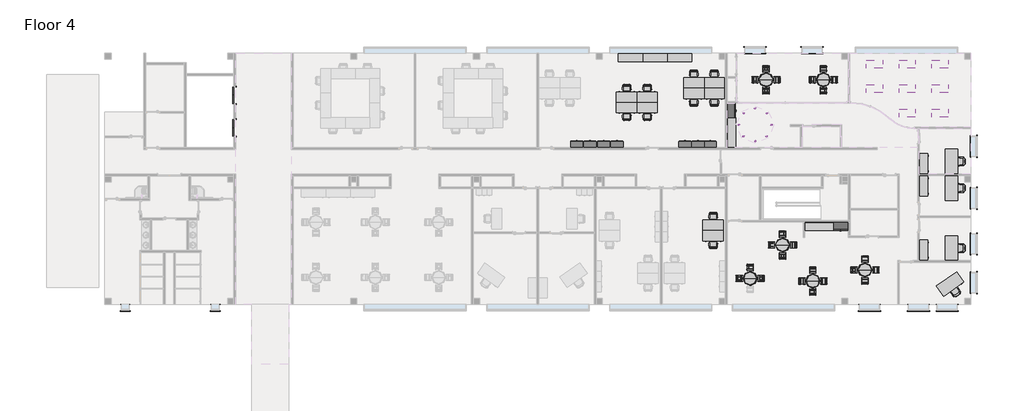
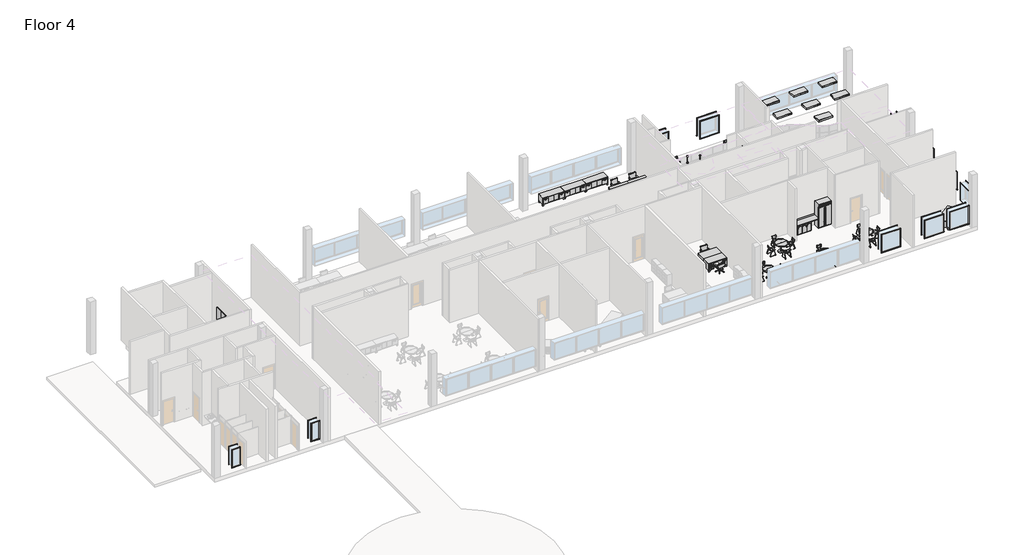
# One storey, part 6 of 6: 76 furniture elements, 26 proxies, 16 light fixtures.
"""IFC4 building model written with IfcOpenShell, lengths in millimetres."""

from ifc_helpers import new_model, si_unit, origin, place, context, project, spatial, transform, mapped, element, save
from components import proxy_ae548678, proxy_0447ab4b, trim_window_exterior_flat_with_sill_05ca63db, trim_window_exterior_flat_with_sill_4912eb0d, trim_window_interior_flat_picture_frame_a1a3bc7c, trim_window_interior_flat_picture_frame_978fd00d, furniture_338da5bd, furniture_7033c86c, chair_executive_chair_executive_8d69e98c, chair_executive_chair_executive_a5be4872, chair_stacking_chair_stacking_4df0970f, chair_task_arms_chair_task_arms_fa5a08ef, chair_task_arms_chair_task_arms_3c69ee15, furniture_b725675f, furniture_6bf0da8d, furniture_0f0bb7e9, furniture_a9e97cbc, furniture_d4af3f8d, furniture_f1eb905c, furniture_e30ff25b, furniture_33f25304, furniture_65204735, furniture_77f0a01d, pendant_lamp_art_glass_led_standard_edcf6bd5, troffer_light_2x4_parabolic_2_x4_4_lamp_120v_ca384779

model = new_model("IFC4")

# Units and contexts
model_context = context("Model", 3, world=origin())
ifc_project = project(units=[si_unit("LENGTHUNIT", "METRE", prefix="MILLI")], contexts=[model_context])

# Site, building, storey
site = spatial("IfcSite", under=ifc_project)
building = spatial("IfcBuilding", under=site)
storey = spatial("IfcBuildingStorey", under=building, Name="Floor 4", Elevation=14935.2)

# Proxies
placement = place(None, origin())
proxy_shape = proxy_ae548678(model_context)
element("IfcBuildingElementProxy", 1, Name="Elevator-Center : 72\" x 114\" Hospital min.", ObjectType="Elevator-Center : 72\" x 114\" Hospital min.", at=placement, inside=storey, context=model_context, shape_type="MappedRepresentation", body=[
    mapped(proxy_shape, transform((6707.2192024, 51882.5975333, 14935.2), x_axis=(0.0, 1.0, 0.0), y_axis=(-1.0, 0.0, 0.0), z_axis=(0.0, 0.0, 1.0))),
])
element("IfcBuildingElementProxy", 2, Name="Elevator-Center : 72\" x 114\" Hospital min.", ObjectType="Elevator-Center : 72\" x 114\" Hospital min.", at=placement, inside=storey, context=model_context, shape_type="MappedRepresentation", body=[
    mapped(proxy_shape, transform((6707.2192024, 54320.9975333, 14935.2), x_axis=(0.0, 1.0, 0.0), y_axis=(-1.0, 0.0, 0.0), z_axis=(0.0, 0.0, 1.0))),
])
proxy_2_shape = proxy_0447ab4b(model_context)
element("IfcBuildingElementProxy", 3, Name="Refrigerator-Side-by-Side : 42\" Left Side Freezer", ObjectType="Refrigerator-Side-by-Side : 42\" Left Side Freezer", at=placement, inside=storey, context=model_context, shape_type="MappedRepresentation", body=[
    mapped(proxy_2_shape, transform((51838.2567024, 44868.311889, 14935.2), x_axis=(1.0, 0.0, 0.0), y_axis=(0.0, 1.0, 0.0), z_axis=(0.0, 0.0, 1.0))),
])
element("IfcBuildingElementProxy", 4, Name="Refrigerator-Side-by-Side : 42\" Left Side Freezer", ObjectType="Refrigerator-Side-by-Side : 42\" Left Side Freezer", at=placement, inside=storey, context=model_context, shape_type="MappedRepresentation", body=[
    mapped(proxy_2_shape, transform((43251.4692024, 53086.799389, 14935.2), x_axis=(0.0, 1.0, 0.0), y_axis=(-1.0, 0.0, 0.0), z_axis=(0.0, 0.0, 1.0))),
])
trim_window_exterior_flat_with_sill_shape = trim_window_exterior_flat_with_sill_05ca63db(model_context)
element("IfcBuildingElementProxy", 5, Name="Trim-Window-Exterior-Flat : with Sill", ObjectType="Trim-Window-Exterior-Flat : with Sill", at=placement, inside=storey, context=model_context, shape_type="MappedRepresentation", body=[
    mapped(trim_window_exterior_flat_with_sill_shape, transform((61956.9817024, 46544.711889, 17373.6), x_axis=(0.0, 1.0, 0.0), y_axis=(0.0, 0.0, 1.0), z_axis=(1.0, 0.0, 0.0))),
])
element("IfcBuildingElementProxy", 6, Name="Trim-Window-Exterior-Flat : with Sill", ObjectType="Trim-Window-Exterior-Flat : with Sill", at=placement, inside=storey, context=model_context, shape_type="MappedRepresentation", body=[
    mapped(trim_window_exterior_flat_with_sill_shape, transform((61956.9817024, 43141.111889, 17373.6), x_axis=(0.0, 1.0, 0.0), y_axis=(0.0, 0.0, 1.0), z_axis=(1.0, 0.0, 0.0))),
])
element("IfcBuildingElementProxy", 7, Name="Trim-Window-Exterior-Flat : with Sill", ObjectType="Trim-Window-Exterior-Flat : with Sill", at=placement, inside=storey, context=model_context, shape_type="MappedRepresentation", body=[
    mapped(trim_window_exterior_flat_with_sill_shape, transform((61956.9817024, 40245.511889, 17373.6), x_axis=(0.0, 1.0, 0.0), y_axis=(0.0, 0.0, 1.0), z_axis=(1.0, 0.0, 0.0))),
])
element("IfcBuildingElementProxy", 8, Name="Trim-Window-Exterior-Flat : with Sill", ObjectType="Trim-Window-Exterior-Flat : with Sill", at=placement, inside=storey, context=model_context, shape_type="MappedRepresentation", body=[
    mapped(trim_window_exterior_flat_with_sill_shape, transform((61956.9817024, 50405.511889, 17373.6), x_axis=(0.0, 1.0, 0.0), y_axis=(0.0, 0.0, 1.0), z_axis=(1.0, 0.0, 0.0))),
])
element("IfcBuildingElementProxy", 9, Name="Trim-Window-Exterior-Flat : with Sill", ObjectType="Trim-Window-Exterior-Flat : with Sill", at=placement, inside=storey, context=model_context, shape_type="MappedRepresentation", body=[
    mapped(trim_window_exterior_flat_with_sill_shape, transform((59742.4192024, 38164.299389, 17373.6), x_axis=(1.0, 0.0, 0.0), y_axis=(0.0, 0.0, 1.0), z_axis=(0.0, -1.0, 0.0))),
])
element("IfcBuildingElementProxy", 10, Name="Trim-Window-Exterior-Flat : with Sill", ObjectType="Trim-Window-Exterior-Flat : with Sill", at=placement, inside=storey, context=model_context, shape_type="MappedRepresentation", body=[
    mapped(trim_window_exterior_flat_with_sill_shape, transform((57608.8192024, 38164.299389, 17373.6), x_axis=(1.0, 0.0, 0.0), y_axis=(0.0, 0.0, 1.0), z_axis=(0.0, -1.0, 0.0))),
])
element("IfcBuildingElementProxy", 11, Name="Trim-Window-Exterior-Flat : with Sill", ObjectType="Trim-Window-Exterior-Flat : with Sill", at=placement, inside=storey, context=model_context, shape_type="MappedRepresentation", body=[
    mapped(trim_window_exterior_flat_with_sill_shape, transform((53951.2192024, 38164.299389, 17373.6), x_axis=(1.0, 0.0, 0.0), y_axis=(0.0, 0.0, 1.0), z_axis=(0.0, -1.0, 0.0))),
])
element("IfcBuildingElementProxy", 12, Name="Trim-Window-Exterior-Flat : with Sill", ObjectType="Trim-Window-Exterior-Flat : with Sill", at=placement, inside=storey, context=model_context, shape_type="MappedRepresentation", body=[
    mapped(trim_window_exterior_flat_with_sill_shape, transform((45423.1692024, 57820.724389, 17373.6), x_axis=(-1.0, 0.0, 0.0), y_axis=(0.0, 0.0, 1.0), z_axis=(0.0, 1.0, 0.0))),
])
element("IfcBuildingElementProxy", 13, Name="Trim-Window-Exterior-Flat : with Sill", ObjectType="Trim-Window-Exterior-Flat : with Sill", at=placement, inside=storey, context=model_context, shape_type="MappedRepresentation", body=[
    mapped(trim_window_exterior_flat_with_sill_shape, transform((49690.3692024, 57820.724389, 17373.6), x_axis=(-1.0, 0.0, 0.0), y_axis=(0.0, 0.0, 1.0), z_axis=(0.0, 1.0, 0.0))),
])
trim_window_exterior_flat_with_sill_2_shape = trim_window_exterior_flat_with_sill_4912eb0d(model_context)
element("IfcBuildingElementProxy", 14, Name="Trim-Window-Exterior-Flat : with Sill", ObjectType="Trim-Window-Exterior-Flat : with Sill", at=placement, inside=storey, context=model_context, shape_type="MappedRepresentation", body=[
    mapped(trim_window_exterior_flat_with_sill_2_shape, transform((-1446.1807976, 38164.299389, 17373.6), x_axis=(1.0, 0.0, 0.0), y_axis=(0.0, 0.0, 1.0), z_axis=(0.0, -1.0, 0.0))),
])
element("IfcBuildingElementProxy", 15, Name="Trim-Window-Exterior-Flat : with Sill", ObjectType="Trim-Window-Exterior-Flat : with Sill", at=placement, inside=storey, context=model_context, shape_type="MappedRepresentation", body=[
    mapped(trim_window_exterior_flat_with_sill_2_shape, transform((5259.4192024, 38164.299389, 17373.6), x_axis=(1.0, 0.0, 0.0), y_axis=(0.0, 0.0, 1.0), z_axis=(0.0, -1.0, 0.0))),
])
trim_window_interior_flat_picture_frame_shape = trim_window_interior_flat_picture_frame_a1a3bc7c(model_context)
element("IfcBuildingElementProxy", 16, Name="Trim-Window-Interior-Flat : Picture Frame", ObjectType="Trim-Window-Interior-Flat : Picture Frame", at=placement, inside=storey, context=model_context, shape_type="MappedRepresentation", body=[
    mapped(trim_window_interior_flat_picture_frame_shape, transform((61502.9567024, 46544.711889, 17373.6), x_axis=(0.0, -1.0, 0.0), y_axis=(0.0, 0.0, 1.0), z_axis=(-1.0, 0.0, 0.0))),
])
element("IfcBuildingElementProxy", 17, Name="Trim-Window-Interior-Flat : Picture Frame", ObjectType="Trim-Window-Interior-Flat : Picture Frame", at=placement, inside=storey, context=model_context, shape_type="MappedRepresentation", body=[
    mapped(trim_window_interior_flat_picture_frame_shape, transform((61502.9567024, 43141.111889, 17373.6), x_axis=(0.0, -1.0, 0.0), y_axis=(0.0, 0.0, 1.0), z_axis=(-1.0, 0.0, 0.0))),
])
element("IfcBuildingElementProxy", 18, Name="Trim-Window-Interior-Flat : Picture Frame", ObjectType="Trim-Window-Interior-Flat : Picture Frame", at=placement, inside=storey, context=model_context, shape_type="MappedRepresentation", body=[
    mapped(trim_window_interior_flat_picture_frame_shape, transform((61502.9567024, 40245.511889, 17373.6), x_axis=(0.0, -1.0, 0.0), y_axis=(0.0, 0.0, 1.0), z_axis=(-1.0, 0.0, 0.0))),
])
element("IfcBuildingElementProxy", 19, Name="Trim-Window-Interior-Flat : Picture Frame", ObjectType="Trim-Window-Interior-Flat : Picture Frame", at=placement, inside=storey, context=model_context, shape_type="MappedRepresentation", body=[
    mapped(trim_window_interior_flat_picture_frame_shape, transform((61502.9567024, 50405.511889, 17373.6), x_axis=(0.0, -1.0, 0.0), y_axis=(0.0, 0.0, 1.0), z_axis=(-1.0, 0.0, 0.0))),
])
element("IfcBuildingElementProxy", 20, Name="Trim-Window-Interior-Flat : Picture Frame", ObjectType="Trim-Window-Interior-Flat : Picture Frame", at=placement, inside=storey, context=model_context, shape_type="MappedRepresentation", body=[
    mapped(trim_window_interior_flat_picture_frame_shape, transform((59742.4192024, 38618.324389, 17373.6), x_axis=(-1.0, 0.0, 0.0), y_axis=(0.0, 0.0, 1.0), z_axis=(0.0, 1.0, 0.0))),
])
element("IfcBuildingElementProxy", 21, Name="Trim-Window-Interior-Flat : Picture Frame", ObjectType="Trim-Window-Interior-Flat : Picture Frame", at=placement, inside=storey, context=model_context, shape_type="MappedRepresentation", body=[
    mapped(trim_window_interior_flat_picture_frame_shape, transform((57608.8192024, 38618.324389, 17373.6), x_axis=(-1.0, 0.0, 0.0), y_axis=(0.0, 0.0, 1.0), z_axis=(0.0, 1.0, 0.0))),
])
element("IfcBuildingElementProxy", 22, Name="Trim-Window-Interior-Flat : Picture Frame", ObjectType="Trim-Window-Interior-Flat : Picture Frame", at=placement, inside=storey, context=model_context, shape_type="MappedRepresentation", body=[
    mapped(trim_window_interior_flat_picture_frame_shape, transform((53951.2192024, 38618.324389, 17373.6), x_axis=(-1.0, 0.0, 0.0), y_axis=(0.0, 0.0, 1.0), z_axis=(0.0, 1.0, 0.0))),
])
element("IfcBuildingElementProxy", 23, Name="Trim-Window-Interior-Flat : Picture Frame", ObjectType="Trim-Window-Interior-Flat : Picture Frame", at=placement, inside=storey, context=model_context, shape_type="MappedRepresentation", body=[
    mapped(trim_window_interior_flat_picture_frame_shape, transform((45423.1692024, 57366.699389, 17373.6), x_axis=(1.0, 0.0, 0.0), y_axis=(0.0, 0.0, 1.0), z_axis=(0.0, -1.0, 0.0))),
])
element("IfcBuildingElementProxy", 24, Name="Trim-Window-Interior-Flat : Picture Frame", ObjectType="Trim-Window-Interior-Flat : Picture Frame", at=placement, inside=storey, context=model_context, shape_type="MappedRepresentation", body=[
    mapped(trim_window_interior_flat_picture_frame_shape, transform((49690.3692024, 57366.699389, 17373.6), x_axis=(1.0, 0.0, 0.0), y_axis=(0.0, 0.0, 1.0), z_axis=(0.0, -1.0, 0.0))),
])
trim_window_interior_flat_picture_frame_2_shape = trim_window_interior_flat_picture_frame_978fd00d(model_context)
element("IfcBuildingElementProxy", 25, Name="Trim-Window-Interior-Flat : Picture Frame", ObjectType="Trim-Window-Interior-Flat : Picture Frame", at=placement, inside=storey, context=model_context, shape_type="MappedRepresentation", body=[
    mapped(trim_window_interior_flat_picture_frame_2_shape, transform((-1446.1807976, 38618.324389, 17373.6), x_axis=(-1.0, 0.0, 0.0), y_axis=(0.0, 0.0, 1.0), z_axis=(0.0, 1.0, 0.0))),
])
element("IfcBuildingElementProxy", 26, Name="Trim-Window-Interior-Flat : Picture Frame", ObjectType="Trim-Window-Interior-Flat : Picture Frame", at=placement, inside=storey, context=model_context, shape_type="MappedRepresentation", body=[
    mapped(trim_window_interior_flat_picture_frame_2_shape, transform((5259.4192024, 38618.324389, 17373.6), x_axis=(-1.0, 0.0, 0.0), y_axis=(0.0, 0.0, 1.0), z_axis=(0.0, 1.0, 0.0))),
])

# Furniture
furniture_shape = furniture_338da5bd(model_context)
element("IfcFurniture", 27, ObjectType="Base Cabinet-Double Door & 2 Drawer : 30\"", at=placement, inside=storey, context=model_context, shape_type="MappedRepresentation", body=[
    mapped(furniture_shape, transform((49498.5939974, 44766.711889, 14935.2), x_axis=(1.0, 0.0, 0.0), y_axis=(0.0, 1.0, 0.0), z_axis=(0.0, 0.0, 1.0))),
])
element("IfcFurniture", 28, ObjectType="Base Cabinet-Double Door & 2 Drawer : 30\"", at=placement, inside=storey, context=model_context, shape_type="MappedRepresentation", body=[
    mapped(furniture_shape, transform((50260.5939974, 44766.711889, 14935.2), x_axis=(1.0, 0.0, 0.0), y_axis=(0.0, 1.0, 0.0), z_axis=(0.0, 0.0, 1.0))),
])
element("IfcFurniture", 29, ObjectType="Base Cabinet-Double Door & 2 Drawer : 30\"", at=placement, inside=storey, context=model_context, shape_type="MappedRepresentation", body=[
    mapped(furniture_shape, transform((43353.0692024, 50691.5741841, 14935.2), x_axis=(0.0, 1.0, 0.0), y_axis=(-1.0, 0.0, 0.0), z_axis=(0.0, 0.0, 1.0))),
])
element("IfcFurniture", 30, ObjectType="Base Cabinet-Double Door & 2 Drawer : 30\"", at=placement, inside=storey, context=model_context, shape_type="MappedRepresentation", body=[
    mapped(furniture_shape, transform((43353.0692024, 51453.5741841, 14935.2), x_axis=(0.0, 1.0, 0.0), y_axis=(-1.0, 0.0, 0.0), z_axis=(0.0, 0.0, 1.0))),
])
furniture_2_shape = furniture_7033c86c(model_context)
element("IfcFurniture", 31, ObjectType="Cabinet-File 4 Drawer : 36\" x 18\" Lat.", at=placement, inside=storey, context=model_context, shape_type="MappedRepresentation", body=[
    mapped(furniture_2_shape, transform((32036.4727553, 50415.7775889, 14935.2), x_axis=(-1.0, 0.0, 0.0), y_axis=(0.0, -1.0, 0.0), z_axis=(0.0, 0.0, 1.0))),
])
element("IfcFurniture", 32, ObjectType="Cabinet-File 4 Drawer : 36\" x 18\" Lat.", at=placement, inside=storey, context=model_context, shape_type="MappedRepresentation", body=[
    mapped(furniture_2_shape, transform((33027.0727553, 50415.7775889, 14935.2), x_axis=(-1.0, 0.0, 0.0), y_axis=(0.0, -1.0, 0.0), z_axis=(0.0, 0.0, 1.0))),
])
element("IfcFurniture", 33, ObjectType="Cabinet-File 4 Drawer : 36\" x 18\" Lat.", at=placement, inside=storey, context=model_context, shape_type="MappedRepresentation", body=[
    mapped(furniture_2_shape, transform((34043.0727553, 50415.7775889, 14935.2), x_axis=(-1.0, 0.0, 0.0), y_axis=(0.0, -1.0, 0.0), z_axis=(0.0, 0.0, 1.0))),
])
element("IfcFurniture", 34, ObjectType="Cabinet-File 4 Drawer : 36\" x 18\" Lat.", at=placement, inside=storey, context=model_context, shape_type="MappedRepresentation", body=[
    mapped(furniture_2_shape, transform((35033.6727553, 50415.7775889, 14935.2), x_axis=(-1.0, 0.0, 0.0), y_axis=(0.0, -1.0, 0.0), z_axis=(0.0, 0.0, 1.0))),
])
element("IfcFurniture", 35, ObjectType="Cabinet-File 4 Drawer : 36\" x 18\" Lat.", at=placement, inside=storey, context=model_context, shape_type="MappedRepresentation", body=[
    mapped(furniture_2_shape, transform((40104.5794408, 50415.7775889, 14935.2), x_axis=(-1.0, 0.0, 0.0), y_axis=(0.0, -1.0, 0.0), z_axis=(0.0, 0.0, 1.0))),
])
element("IfcFurniture", 36, ObjectType="Cabinet-File 4 Drawer : 36\" x 18\" Lat.", at=placement, inside=storey, context=model_context, shape_type="MappedRepresentation", body=[
    mapped(furniture_2_shape, transform((41053.4727553, 50415.7775889, 14935.2), x_axis=(-1.0, 0.0, 0.0), y_axis=(0.0, -1.0, 0.0), z_axis=(0.0, 0.0, 1.0))),
])
element("IfcFurniture", 37, ObjectType="Cabinet-File 4 Drawer : 36\" x 18\" Lat.", at=placement, inside=storey, context=model_context, shape_type="MappedRepresentation", body=[
    mapped(furniture_2_shape, transform((41967.8727553, 50415.7775889, 14935.2), x_axis=(-1.0, 0.0, 0.0), y_axis=(0.0, -1.0, 0.0), z_axis=(0.0, 0.0, 1.0))),
])
chair_executive_chair_executive_shape = chair_executive_chair_executive_8d69e98c(model_context)
element("IfcFurniture", 38, ObjectType="Chair-Executive : Chair-Executive", at=placement, inside=storey, context=model_context, shape_type="MappedRepresentation", body=[
    mapped(chair_executive_chair_executive_shape, transform((60745.1356072, 47167.3085693, 14935.2), x_axis=(0.0, 1.0, 0.0), y_axis=(-1.0, 0.0, 0.0), z_axis=(0.0, 0.0, 1.0))),
])
chair_executive_chair_executive_2_shape = chair_executive_chair_executive_a5be4872(model_context)
element("IfcFurniture", 39, ObjectType="Chair-Executive : Chair-Executive", at=placement, inside=storey, context=model_context, shape_type="MappedRepresentation", body=[
    mapped(chair_executive_chair_executive_2_shape, transform((60471.9435605, 39658.0167973, 14935.2), x_axis=(-0.819152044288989, -0.57357643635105, 0.0), y_axis=(0.57357643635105, -0.819152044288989, 0.0), z_axis=(0.0, 0.0, 1.0))),
])
element("IfcFurniture", 40, ObjectType="Chair-Executive : Chair-Executive", at=placement, inside=storey, context=model_context, shape_type="MappedRepresentation", body=[
    mapped(chair_executive_chair_executive_2_shape, transform((60745.1356072, 42969.3652087, 14935.2), x_axis=(0.0, -1.0, 0.0), y_axis=(1.0, 0.0, 0.0), z_axis=(0.0, 0.0, 1.0))),
])
element("IfcFurniture", 41, ObjectType="Chair-Executive : Chair-Executive", at=placement, inside=storey, context=model_context, shape_type="MappedRepresentation", body=[
    mapped(chair_executive_chair_executive_2_shape, transform((60745.1356072, 49427.3152087, 14935.2), x_axis=(0.0, -1.0, 0.0), y_axis=(1.0, 0.0, 0.0), z_axis=(0.0, 0.0, 1.0))),
])
chair_stacking_chair_stacking_shape = chair_stacking_chair_stacking_4df0970f(model_context)
element("IfcFurniture", 42, ObjectType="Chair-Stacking : Chair-Stacking", at=placement, inside=storey, context=model_context, shape_type="MappedRepresentation", body=[
    mapped(chair_stacking_chair_stacking_shape, transform((45995.2489883, 40754.7810293, 14935.2), x_axis=(0.0, 1.0, 0.0), y_axis=(-1.0, 0.0, 0.0), z_axis=(0.0, 0.0, 1.0))),
])
element("IfcFurniture", 43, ObjectType="Chair-Stacking : Chair-Stacking", at=placement, inside=storey, context=model_context, shape_type="MappedRepresentation", body=[
    mapped(chair_stacking_chair_stacking_shape, transform((44894.4483845, 41497.4832725, 14935.2), x_axis=(-1.0, 0.0, 0.0), y_axis=(0.0, -1.0, 0.0), z_axis=(0.0, 0.0, 1.0))),
])
element("IfcFurniture", 44, ObjectType="Chair-Stacking : Chair-Stacking", at=placement, inside=storey, context=model_context, shape_type="MappedRepresentation", body=[
    mapped(chair_stacking_chair_stacking_shape, transform((44151.7461412, 40396.6826686, 14935.2), x_axis=(0.0, -1.0, 0.0), y_axis=(1.0, 0.0, 0.0), z_axis=(0.0, 0.0, 1.0))),
])
element("IfcFurniture", 45, ObjectType="Chair-Stacking : Chair-Stacking", at=placement, inside=storey, context=model_context, shape_type="MappedRepresentation", body=[
    mapped(chair_stacking_chair_stacking_shape, transform((47666.1534015, 42140.227428, 14935.2), x_axis=(1.0, 0.0, 0.0), y_axis=(0.0, 1.0, 0.0), z_axis=(0.0, 0.0, 1.0))),
])
element("IfcFurniture", 46, ObjectType="Chair-Stacking : Chair-Stacking", at=placement, inside=storey, context=model_context, shape_type="MappedRepresentation", body=[
    mapped(chair_stacking_chair_stacking_shape, transform((48408.8556447, 43241.0280319, 14935.2), x_axis=(0.0, 1.0, 0.0), y_axis=(-1.0, 0.0, 0.0), z_axis=(0.0, 0.0, 1.0))),
])
element("IfcFurniture", 47, ObjectType="Chair-Stacking : Chair-Stacking", at=placement, inside=storey, context=model_context, shape_type="MappedRepresentation", body=[
    mapped(chair_stacking_chair_stacking_shape, transform((47308.0550408, 43983.7302751, 14935.2), x_axis=(-1.0, 0.0, 0.0), y_axis=(0.0, -1.0, 0.0), z_axis=(0.0, 0.0, 1.0))),
])
element("IfcFurniture", 48, ObjectType="Chair-Stacking : Chair-Stacking", at=placement, inside=storey, context=model_context, shape_type="MappedRepresentation", body=[
    mapped(chair_stacking_chair_stacking_shape, transform((46565.3527976, 42882.9296712, 14935.2), x_axis=(0.0, -1.0, 0.0), y_axis=(1.0, 0.0, 0.0), z_axis=(0.0, 0.0, 1.0))),
])
element("IfcFurniture", 49, ObjectType="Chair-Stacking : Chair-Stacking", at=placement, inside=storey, context=model_context, shape_type="MappedRepresentation", body=[
    mapped(chair_stacking_chair_stacking_shape, transform((49919.2525309, 39455.088446, 14935.2), x_axis=(1.0, 0.0, 0.0), y_axis=(0.0, 1.0, 0.0), z_axis=(0.0, 0.0, 1.0))),
])
element("IfcFurniture", 50, ObjectType="Chair-Stacking : Chair-Stacking", at=placement, inside=storey, context=model_context, shape_type="MappedRepresentation", body=[
    mapped(chair_stacking_chair_stacking_shape, transform((50661.9547742, 40555.8890499, 14935.2), x_axis=(0.0, 1.0, 0.0), y_axis=(-1.0, 0.0, 0.0), z_axis=(0.0, 0.0, 1.0))),
])
element("IfcFurniture", 51, ObjectType="Chair-Stacking : Chair-Stacking", at=placement, inside=storey, context=model_context, shape_type="MappedRepresentation", body=[
    mapped(chair_stacking_chair_stacking_shape, transform((49561.1541703, 41298.5912931, 14935.2), x_axis=(-1.0, 0.0, 0.0), y_axis=(0.0, -1.0, 0.0), z_axis=(0.0, 0.0, 1.0))),
])
element("IfcFurniture", 52, ObjectType="Chair-Stacking : Chair-Stacking", at=placement, inside=storey, context=model_context, shape_type="MappedRepresentation", body=[
    mapped(chair_stacking_chair_stacking_shape, transform((48818.451927, 40197.7906892, 14935.2), x_axis=(0.0, -1.0, 0.0), y_axis=(1.0, 0.0, 0.0), z_axis=(0.0, 0.0, 1.0))),
])
element("IfcFurniture", 53, ObjectType="Chair-Stacking : Chair-Stacking", at=placement, inside=storey, context=model_context, shape_type="MappedRepresentation", body=[
    mapped(chair_stacking_chair_stacking_shape, transform((53795.0645841, 40278.9177297, 14935.2), x_axis=(1.0, 0.0, 0.0), y_axis=(0.0, 1.0, 0.0), z_axis=(0.0, 0.0, 1.0))),
])
element("IfcFurniture", 54, ObjectType="Chair-Stacking : Chair-Stacking", at=placement, inside=storey, context=model_context, shape_type="MappedRepresentation", body=[
    mapped(chair_stacking_chair_stacking_shape, transform((54537.7668273, 41379.7183336, 14935.2), x_axis=(0.0, 1.0, 0.0), y_axis=(-1.0, 0.0, 0.0), z_axis=(0.0, 0.0, 1.0))),
])
element("IfcFurniture", 55, ObjectType="Chair-Stacking : Chair-Stacking", at=placement, inside=storey, context=model_context, shape_type="MappedRepresentation", body=[
    mapped(chair_stacking_chair_stacking_shape, transform((53436.9662234, 42122.4205768, 14935.2), x_axis=(-1.0, 0.0, 0.0), y_axis=(0.0, -1.0, 0.0), z_axis=(0.0, 0.0, 1.0))),
])
element("IfcFurniture", 56, ObjectType="Chair-Stacking : Chair-Stacking", at=placement, inside=storey, context=model_context, shape_type="MappedRepresentation", body=[
    mapped(chair_stacking_chair_stacking_shape, transform((52694.2639802, 41021.6199729, 14935.2), x_axis=(0.0, -1.0, 0.0), y_axis=(1.0, 0.0, 0.0), z_axis=(0.0, 0.0, 1.0))),
])
element("IfcFurniture", 57, ObjectType="Chair-Stacking : Chair-Stacking", at=placement, inside=storey, context=model_context, shape_type="MappedRepresentation", body=[
    mapped(chair_stacking_chair_stacking_shape, transform((50701.2683827, 54457.5746587, 14935.2), x_axis=(1.0, 0.0, 0.0), y_axis=(0.0, 1.0, 0.0), z_axis=(0.0, 0.0, 1.0))),
])
element("IfcFurniture", 58, ObjectType="Chair-Stacking : Chair-Stacking", at=placement, inside=storey, context=model_context, shape_type="MappedRepresentation", body=[
    mapped(chair_stacking_chair_stacking_shape, transform((51443.9706259, 55558.3752626, 14935.2), x_axis=(0.0, 1.0, 0.0), y_axis=(-1.0, 0.0, 0.0), z_axis=(0.0, 0.0, 1.0))),
])
element("IfcFurniture", 59, ObjectType="Chair-Stacking : Chair-Stacking", at=placement, inside=storey, context=model_context, shape_type="MappedRepresentation", body=[
    mapped(chair_stacking_chair_stacking_shape, transform((50343.170022, 56301.0775058, 14935.2), x_axis=(-1.0, 0.0, 0.0), y_axis=(0.0, -1.0, 0.0), z_axis=(0.0, 0.0, 1.0))),
])
element("IfcFurniture", 60, ObjectType="Chair-Stacking : Chair-Stacking", at=placement, inside=storey, context=model_context, shape_type="MappedRepresentation", body=[
    mapped(chair_stacking_chair_stacking_shape, transform((49600.4677788, 55200.276902, 14935.2), x_axis=(0.0, -1.0, 0.0), y_axis=(1.0, 0.0, 0.0), z_axis=(0.0, 0.0, 1.0))),
])
element("IfcFurniture", 61, ObjectType="Chair-Stacking : Chair-Stacking", at=placement, inside=storey, context=model_context, shape_type="MappedRepresentation", body=[
    mapped(chair_stacking_chair_stacking_shape, transform((46434.0683827, 54457.5746587, 14935.2), x_axis=(1.0, 0.0, 0.0), y_axis=(0.0, 1.0, 0.0), z_axis=(0.0, 0.0, 1.0))),
])
element("IfcFurniture", 62, ObjectType="Chair-Stacking : Chair-Stacking", at=placement, inside=storey, context=model_context, shape_type="MappedRepresentation", body=[
    mapped(chair_stacking_chair_stacking_shape, transform((47176.7706259, 55558.3752626, 14935.2), x_axis=(0.0, 1.0, 0.0), y_axis=(-1.0, 0.0, 0.0), z_axis=(0.0, 0.0, 1.0))),
])
element("IfcFurniture", 63, ObjectType="Chair-Stacking : Chair-Stacking", at=placement, inside=storey, context=model_context, shape_type="MappedRepresentation", body=[
    mapped(chair_stacking_chair_stacking_shape, transform((46075.970022, 56301.0775058, 14935.2), x_axis=(-1.0, 0.0, 0.0), y_axis=(0.0, -1.0, 0.0), z_axis=(0.0, 0.0, 1.0))),
])
element("IfcFurniture", 64, ObjectType="Chair-Stacking : Chair-Stacking", at=placement, inside=storey, context=model_context, shape_type="MappedRepresentation", body=[
    mapped(chair_stacking_chair_stacking_shape, transform((45333.2677788, 55200.276902, 14935.2), x_axis=(0.0, -1.0, 0.0), y_axis=(1.0, 0.0, 0.0), z_axis=(0.0, 0.0, 1.0))),
])
chair_task_arms_chair_task_arms_shape = chair_task_arms_chair_task_arms_fa5a08ef(model_context)
element("IfcFurniture", 65, ObjectType="Chair-Task Arms : Chair-Task Arms", at=placement, inside=storey, context=model_context, shape_type="MappedRepresentation", body=[
    mapped(chair_task_arms_chair_task_arms_shape, transform((42465.360022, 45230.1577906, 14935.2), x_axis=(-1.0, 0.0, 0.0), y_axis=(0.0, -1.0, 0.0), z_axis=(0.0, 0.0, 1.0))),
])
element("IfcFurniture", 66, ObjectType="Chair-Task Arms : Chair-Task Arms", at=placement, inside=storey, context=model_context, shape_type="MappedRepresentation", body=[
    mapped(chair_task_arms_chair_task_arms_shape, transform((42259.5783827, 53667.1777354, 14935.2), x_axis=(1.0, 0.0, 0.0), y_axis=(0.0, 1.0, 0.0), z_axis=(0.0, 0.0, 1.0))),
])
element("IfcFurniture", 67, ObjectType="Chair-Task Arms : Chair-Task Arms", at=placement, inside=storey, context=model_context, shape_type="MappedRepresentation", body=[
    mapped(chair_task_arms_chair_task_arms_shape, transform((40735.5783827, 53667.1777354, 14935.2), x_axis=(1.0, 0.0, 0.0), y_axis=(0.0, 1.0, 0.0), z_axis=(0.0, 0.0, 1.0))),
])
element("IfcFurniture", 68, ObjectType="Chair-Task Arms : Chair-Task Arms", at=placement, inside=storey, context=model_context, shape_type="MappedRepresentation", body=[
    mapped(chair_task_arms_chair_task_arms_shape, transform((37266.7496361, 52601.9206491, 14935.2), x_axis=(1.0, 0.0, 0.0), y_axis=(0.0, 1.0, 0.0), z_axis=(0.0, 0.0, 1.0))),
])
element("IfcFurniture", 69, ObjectType="Chair-Task Arms : Chair-Task Arms", at=placement, inside=storey, context=model_context, shape_type="MappedRepresentation", body=[
    mapped(chair_task_arms_chair_task_arms_shape, transform((35742.7496361, 52601.9206491, 14935.2), x_axis=(1.0, 0.0, 0.0), y_axis=(0.0, 1.0, 0.0), z_axis=(0.0, 0.0, 1.0))),
])
chair_task_arms_chair_task_arms_2_shape = chair_task_arms_chair_task_arms_3c69ee15(model_context)
element("IfcFurniture", 70, ObjectType="Chair-Task Arms : Chair-Task Arms", at=placement, inside=storey, context=model_context, shape_type="MappedRepresentation", body=[
    mapped(chair_task_arms_chair_task_arms_2_shape, transform((42465.360022, 43058.6659874, 14935.2), x_axis=(-1.0, 0.0, 0.0), y_axis=(0.0, -1.0, 0.0), z_axis=(0.0, 0.0, 1.0))),
])
element("IfcFurniture", 71, ObjectType="Chair-Task Arms : Chair-Task Arms", at=placement, inside=storey, context=model_context, shape_type="MappedRepresentation", body=[
    mapped(chair_task_arms_chair_task_arms_2_shape, transform((42259.5783827, 55838.6695387, 14935.2), x_axis=(1.0, 0.0, 0.0), y_axis=(0.0, 1.0, 0.0), z_axis=(0.0, 0.0, 1.0))),
])
element("IfcFurniture", 72, ObjectType="Chair-Task Arms : Chair-Task Arms", at=placement, inside=storey, context=model_context, shape_type="MappedRepresentation", body=[
    mapped(chair_task_arms_chair_task_arms_2_shape, transform((40735.5783827, 55838.6695387, 14935.2), x_axis=(1.0, 0.0, 0.0), y_axis=(0.0, 1.0, 0.0), z_axis=(0.0, 0.0, 1.0))),
])
element("IfcFurniture", 73, ObjectType="Chair-Task Arms : Chair-Task Arms", at=placement, inside=storey, context=model_context, shape_type="MappedRepresentation", body=[
    mapped(chair_task_arms_chair_task_arms_2_shape, transform((37266.7496361, 54773.4124524, 14935.2), x_axis=(1.0, 0.0, 0.0), y_axis=(0.0, 1.0, 0.0), z_axis=(0.0, 0.0, 1.0))),
])
element("IfcFurniture", 74, ObjectType="Chair-Task Arms : Chair-Task Arms", at=placement, inside=storey, context=model_context, shape_type="MappedRepresentation", body=[
    mapped(chair_task_arms_chair_task_arms_2_shape, transform((35742.7496361, 54773.4124524, 14935.2), x_axis=(1.0, 0.0, 0.0), y_axis=(0.0, 1.0, 0.0), z_axis=(0.0, 0.0, 1.0))),
])
furniture_3_shape = furniture_b725675f(model_context)
element("IfcFurniture", 75, ObjectType="Counter Top : 24\" Depth", at=placement, inside=storey, context=model_context, shape_type="MappedRepresentation", body=[
    mapped(furniture_3_shape, transform((50336.7939974, 44766.711889, 14935.2), x_axis=(1.0, 0.0, 0.0), y_axis=(0.0, 1.0, 0.0), z_axis=(0.0, 0.0, 1.0))),
])
furniture_4_shape = furniture_6bf0da8d(model_context)
element("IfcFurniture", 76, ObjectType="Counter Top : 24\" Depth", at=placement, inside=storey, context=model_context, shape_type="MappedRepresentation", body=[
    mapped(furniture_4_shape, transform((43353.0692024, 51529.7741841, 14935.2), x_axis=(0.0, 1.0, 0.0), y_axis=(-1.0, 0.0, 0.0), z_axis=(0.0, 0.0, 1.0))),
])
furniture_5_shape = furniture_0f0bb7e9(model_context)
element("IfcFurniture", 77, ObjectType="Credenza : 60\" x 24\"", at=placement, inside=storey, context=model_context, shape_type="MappedRepresentation", body=[
    mapped(furniture_5_shape, transform((57986.4620302, 42616.4301267, 14935.2), x_axis=(0.0, 1.0, 0.0), y_axis=(-1.0, 0.0, 0.0), z_axis=(0.0, 0.0, 1.0))),
])
element("IfcFurniture", 78, ObjectType="Credenza : 60\" x 24\"", at=placement, inside=storey, context=model_context, shape_type="MappedRepresentation", body=[
    mapped(furniture_5_shape, transform((57986.4620302, 49074.3801267, 14935.2), x_axis=(0.0, 1.0, 0.0), y_axis=(-1.0, 0.0, 0.0), z_axis=(0.0, 0.0, 1.0))),
])
furniture_6_shape = furniture_a9e97cbc(model_context)
element("IfcFurniture", 79, ObjectType="Credenza : 60\" x 24\"", at=placement, inside=storey, context=model_context, shape_type="MappedRepresentation", body=[
    mapped(furniture_6_shape, transform((57986.4620302, 47520.2436513, 14935.2), x_axis=(0.0, -1.0, 0.0), y_axis=(1.0, 0.0, 0.0), z_axis=(0.0, 0.0, 1.0))),
])
furniture_7_shape = furniture_d4af3f8d(model_context)
element("IfcFurniture", 80, ObjectType="Credenza : 72\" x 24\"", at=placement, inside=storey, context=model_context, shape_type="MappedRepresentation", body=[
    mapped(furniture_7_shape, transform((39750.2249401, 57057.3190611, 14935.2), x_axis=(1.0, 0.0, 0.0), y_axis=(0.0, 1.0, 0.0), z_axis=(0.0, 0.0, 1.0))),
])
element("IfcFurniture", 81, ObjectType="Credenza : 72\" x 24\"", at=placement, inside=storey, context=model_context, shape_type="MappedRepresentation", body=[
    mapped(furniture_7_shape, transform((37921.4249401, 57057.3190611, 14935.2), x_axis=(1.0, 0.0, 0.0), y_axis=(0.0, 1.0, 0.0), z_axis=(0.0, 0.0, 1.0))),
])
element("IfcFurniture", 82, ObjectType="Credenza : 72\" x 24\"", at=placement, inside=storey, context=model_context, shape_type="MappedRepresentation", body=[
    mapped(furniture_7_shape, transform((36092.6249401, 57057.3190611, 14935.2), x_axis=(1.0, 0.0, 0.0), y_axis=(0.0, 1.0, 0.0), z_axis=(0.0, 0.0, 1.0))),
])
furniture_8_shape = furniture_f1eb905c(model_context)
element("IfcFurniture", 83, ObjectType="Desk : 60\" x 30\"", at=placement, inside=storey, context=model_context, shape_type="MappedRepresentation", body=[
    mapped(furniture_8_shape, transform((43086.3692024, 44906.411889, 14935.2), x_axis=(-1.0, 0.0, 0.0), y_axis=(0.0, -1.0, 0.0), z_axis=(0.0, 0.0, 1.0))),
])
element("IfcFurniture", 84, ObjectType="Desk : 60\" x 30\"", at=placement, inside=storey, context=model_context, shape_type="MappedRepresentation", body=[
    mapped(furniture_8_shape, transform((41638.5692024, 53990.9236371, 14935.2), x_axis=(1.0, 0.0, 0.0), y_axis=(0.0, 1.0, 0.0), z_axis=(0.0, 0.0, 1.0))),
])
element("IfcFurniture", 85, ObjectType="Desk : 60\" x 30\"", at=placement, inside=storey, context=model_context, shape_type="MappedRepresentation", body=[
    mapped(furniture_8_shape, transform((40114.5692024, 53990.9236371, 14935.2), x_axis=(1.0, 0.0, 0.0), y_axis=(0.0, 1.0, 0.0), z_axis=(0.0, 0.0, 1.0))),
])
element("IfcFurniture", 86, ObjectType="Desk : 60\" x 30\"", at=placement, inside=storey, context=model_context, shape_type="MappedRepresentation", body=[
    mapped(furniture_8_shape, transform((36645.7404558, 52925.6665507, 14935.2), x_axis=(1.0, 0.0, 0.0), y_axis=(0.0, 1.0, 0.0), z_axis=(0.0, 0.0, 1.0))),
])
element("IfcFurniture", 87, ObjectType="Desk : 60\" x 30\"", at=placement, inside=storey, context=model_context, shape_type="MappedRepresentation", body=[
    mapped(furniture_8_shape, transform((35121.7404558, 52925.6665507, 14935.2), x_axis=(1.0, 0.0, 0.0), y_axis=(0.0, 1.0, 0.0), z_axis=(0.0, 0.0, 1.0))),
])
furniture_9_shape = furniture_e30ff25b(model_context)
element("IfcFurniture", 88, ObjectType="Desk : 60\" x 30\"", at=placement, inside=storey, context=model_context, shape_type="MappedRepresentation", body=[
    mapped(furniture_9_shape, transform((43086.3692024, 43382.411889, 14935.2), x_axis=(-1.0, 0.0, 0.0), y_axis=(0.0, -1.0, 0.0), z_axis=(0.0, 0.0, 1.0))),
])
element("IfcFurniture", 89, ObjectType="Desk : 60\" x 30\"", at=placement, inside=storey, context=model_context, shape_type="MappedRepresentation", body=[
    mapped(furniture_9_shape, transform((41638.5692024, 55514.9236371, 14935.2), x_axis=(1.0, 0.0, 0.0), y_axis=(0.0, 1.0, 0.0), z_axis=(0.0, 0.0, 1.0))),
])
element("IfcFurniture", 90, ObjectType="Desk : 60\" x 30\"", at=placement, inside=storey, context=model_context, shape_type="MappedRepresentation", body=[
    mapped(furniture_9_shape, transform((40114.5692024, 55514.9236371, 14935.2), x_axis=(1.0, 0.0, 0.0), y_axis=(0.0, 1.0, 0.0), z_axis=(0.0, 0.0, 1.0))),
])
element("IfcFurniture", 91, ObjectType="Desk : 60\" x 30\"", at=placement, inside=storey, context=model_context, shape_type="MappedRepresentation", body=[
    mapped(furniture_9_shape, transform((36645.7404558, 54449.6665507, 14935.2), x_axis=(1.0, 0.0, 0.0), y_axis=(0.0, 1.0, 0.0), z_axis=(0.0, 0.0, 1.0))),
])
element("IfcFurniture", 92, ObjectType="Desk : 60\" x 30\"", at=placement, inside=storey, context=model_context, shape_type="MappedRepresentation", body=[
    mapped(furniture_9_shape, transform((35121.7404558, 54449.6665507, 14935.2), x_axis=(1.0, 0.0, 0.0), y_axis=(0.0, 1.0, 0.0), z_axis=(0.0, 0.0, 1.0))),
])
furniture_10_shape = furniture_33f25304(model_context)
element("IfcFurniture", 93, ObjectType="Desk : 72\" x 36\"", at=placement, inside=storey, context=model_context, shape_type="MappedRepresentation", body=[
    mapped(furniture_10_shape, transform((60421.3897055, 46546.299389, 14935.2), x_axis=(0.0, 1.0, 0.0), y_axis=(-1.0, 0.0, 0.0), z_axis=(0.0, 0.0, 1.0))),
])
furniture_11_shape = furniture_65204735(model_context)
element("IfcFurniture", 94, ObjectType="Desk : 72\" x 36\"", at=placement, inside=storey, context=model_context, shape_type="MappedRepresentation", body=[
    mapped(furniture_11_shape, transform((60794.9514796, 40279.410147, 14935.2), x_axis=(-0.8191520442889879, -0.5735764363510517, 0.0), y_axis=(0.5735764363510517, -0.8191520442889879, 0.0), z_axis=(0.0, 0.0, 1.0))),
])
element("IfcFurniture", 95, ObjectType="Desk : 72\" x 36\"", at=placement, inside=storey, context=model_context, shape_type="MappedRepresentation", body=[
    mapped(furniture_11_shape, transform((60421.3897055, 43590.374389, 14935.2), x_axis=(0.0, -1.0, 0.0), y_axis=(1.0, 0.0, 0.0), z_axis=(0.0, 0.0, 1.0))),
])
element("IfcFurniture", 96, ObjectType="Desk : 72\" x 36\"", at=placement, inside=storey, context=model_context, shape_type="MappedRepresentation", body=[
    mapped(furniture_11_shape, transform((60421.3897055, 50048.324389, 14935.2), x_axis=(0.0, -1.0, 0.0), y_axis=(1.0, 0.0, 0.0), z_axis=(0.0, 0.0, 1.0))),
])
furniture_12_shape = furniture_77f0a01d(model_context)
element("IfcFurniture", 97, ObjectType="Table-Round : 42\" Diameter", at=placement, inside=storey, context=model_context, shape_type="MappedRepresentation", body=[
    mapped(furniture_12_shape, transform((45073.4975648, 40575.7318489, 14935.2), x_axis=(1.0, 0.0, 0.0), y_axis=(0.0, 1.0, 0.0), z_axis=(0.0, 0.0, 1.0))),
])
element("IfcFurniture", 98, ObjectType="Table-Round : 42\" Diameter", at=placement, inside=storey, context=model_context, shape_type="MappedRepresentation", body=[
    mapped(furniture_12_shape, transform((47487.1042211, 43061.9788516, 14935.2), x_axis=(1.0, 0.0, 0.0), y_axis=(0.0, 1.0, 0.0), z_axis=(0.0, 0.0, 1.0))),
])
element("IfcFurniture", 99, ObjectType="Table-Round : 42\" Diameter", at=placement, inside=storey, context=model_context, shape_type="MappedRepresentation", body=[
    mapped(furniture_12_shape, transform((49740.2033506, 40376.8398696, 14935.2), x_axis=(1.0, 0.0, 0.0), y_axis=(0.0, 1.0, 0.0), z_axis=(0.0, 0.0, 1.0))),
])
element("IfcFurniture", 100, ObjectType="Table-Round : 42\" Diameter", at=placement, inside=storey, context=model_context, shape_type="MappedRepresentation", body=[
    mapped(furniture_12_shape, transform((53616.0154037, 41200.6691532, 14935.2), x_axis=(1.0, 0.0, 0.0), y_axis=(0.0, 1.0, 0.0), z_axis=(0.0, 0.0, 1.0))),
])
element("IfcFurniture", 101, ObjectType="Table-Round : 42\" Diameter", at=placement, inside=storey, context=model_context, shape_type="MappedRepresentation", body=[
    mapped(furniture_12_shape, transform((50522.2192024, 55379.3260823, 14935.2), x_axis=(1.0, 0.0, 0.0), y_axis=(0.0, 1.0, 0.0), z_axis=(0.0, 0.0, 1.0))),
])
element("IfcFurniture", 102, ObjectType="Table-Round : 42\" Diameter", at=placement, inside=storey, context=model_context, shape_type="MappedRepresentation", body=[
    mapped(furniture_12_shape, transform((46255.0192024, 55379.3260823, 14935.2), x_axis=(1.0, 0.0, 0.0), y_axis=(0.0, 1.0, 0.0), z_axis=(0.0, 0.0, 1.0))),
])

# Light fixtures
pendant_lamp_art_glass_led_standard_shape = pendant_lamp_art_glass_led_standard_edcf6bd5(model_context)
element("IfcLightFixture", 103, ObjectType="Pendant Lamp - Art Glass - LED : Standard", at=placement, inside=storey, context=model_context, shape_type="MappedRepresentation", body=[
    mapped(pendant_lamp_art_glass_led_standard_shape, transform((45443.5737821, 53240.8554346, 17983.2), x_axis=(1.0, 0.0, 0.0), y_axis=(0.0, -1.0, 0.0), z_axis=(0.0, 0.0, -1.0))),
])
element("IfcLightFixture", 104, ObjectType="Pendant Lamp - Art Glass - LED : Standard", at=placement, inside=storey, context=model_context, shape_type="MappedRepresentation", body=[
    mapped(pendant_lamp_art_glass_led_standard_shape, transform((46305.4109755, 52883.1144755, 17983.2), x_axis=(0.7071067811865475, -0.7071067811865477, 0.0), y_axis=(-0.7071067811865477, -0.7071067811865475, 0.0), z_axis=(0.0, 0.0, -1.0))),
])
element("IfcLightFixture", 105, ObjectType="Pendant Lamp - Art Glass - LED : Standard", at=placement, inside=storey, context=model_context, shape_type="MappedRepresentation", body=[
    mapped(pendant_lamp_art_glass_led_standard_shape, transform((46661.8608412, 52020.7424937, 17983.2), x_axis=(0.0, -1.0, 0.0), y_axis=(-1.0, 0.0, 0.0), z_axis=(0.0, 0.0, -1.0))),
])
element("IfcLightFixture", 106, ObjectType="Pendant Lamp - Art Glass - LED : Standard", at=placement, inside=storey, context=model_context, shape_type="MappedRepresentation", body=[
    mapped(pendant_lamp_art_glass_led_standard_shape, transform((46304.119882, 51158.9053003, 17983.2), x_axis=(-0.7071067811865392, -0.7071067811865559, 0.0), y_axis=(-0.7071067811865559, 0.7071067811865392, 0.0), z_axis=(0.0, 0.0, -1.0))),
])
element("IfcLightFixture", 107, ObjectType="Pendant Lamp - Art Glass - LED : Standard", at=placement, inside=storey, context=model_context, shape_type="MappedRepresentation", body=[
    mapped(pendant_lamp_art_glass_led_standard_shape, transform((45441.7479002, 50802.4554346, 17983.2), x_axis=(-1.0, 0.0, 0.0), y_axis=(0.0, 1.0, 0.0), z_axis=(0.0, 0.0, -1.0))),
])
element("IfcLightFixture", 108, ObjectType="Pendant Lamp - Art Glass - LED : Standard", at=placement, inside=storey, context=model_context, shape_type="MappedRepresentation", body=[
    mapped(pendant_lamp_art_glass_led_standard_shape, transform((44579.9107068, 51160.1963938, 17983.2), x_axis=(-0.7071067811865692, 0.707106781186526, 0.0), y_axis=(0.707106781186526, 0.7071067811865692, 0.0), z_axis=(0.0, 0.0, -1.0))),
])
element("IfcLightFixture", 109, ObjectType="Pendant Lamp - Art Glass - LED : Standard", at=placement, inside=storey, context=model_context, shape_type="MappedRepresentation", body=[
    mapped(pendant_lamp_art_glass_led_standard_shape, transform((44223.4608412, 52022.5683756, 17983.2), x_axis=(0.0, 1.0, 0.0), y_axis=(1.0, 0.0, 0.0), z_axis=(0.0, 0.0, -1.0))),
])
element("IfcLightFixture", 110, ObjectType="Pendant Lamp - Art Glass - LED : Standard", at=placement, inside=storey, context=model_context, shape_type="MappedRepresentation", body=[
    mapped(pendant_lamp_art_glass_led_standard_shape, transform((44581.2018003, 52884.405569, 17983.2), x_axis=(0.7071067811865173, 0.7071067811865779, 0.0), y_axis=(0.7071067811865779, -0.7071067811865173, 0.0), z_axis=(0.0, 0.0, -1.0))),
])
troffer_light_2x4_parabolic_2_x4_4_lamp_120v_shape = troffer_light_2x4_parabolic_2_x4_4_lamp_120v_ca384779(model_context)
element("IfcLightFixture", 111, ObjectType="Troffer Light - 2x4 Parabolic : 2'x4'(4 Lamp) - 120V", at=placement, inside=storey, context=model_context, shape_type="MappedRepresentation", body=[
    mapped(troffer_light_2x4_parabolic_2_x4_4_lamp_120v_shape, transform((54344.5727039, 56606.2215711, 15240.0), x_axis=(1.0, 0.0, 0.0), y_axis=(0.0, 1.0, 0.0), z_axis=(0.0, 0.0, 1.0))),
])
element("IfcLightFixture", 112, ObjectType="Troffer Light - 2x4 Parabolic : 2'x4'(4 Lamp) - 120V", at=placement, inside=storey, context=model_context, shape_type="MappedRepresentation", body=[
    mapped(troffer_light_2x4_parabolic_2_x4_4_lamp_120v_shape, transform((56782.9727039, 56606.2215711, 15240.0), x_axis=(1.0, 0.0, 0.0), y_axis=(0.0, 1.0, 0.0), z_axis=(0.0, 0.0, 1.0))),
])
element("IfcLightFixture", 113, ObjectType="Troffer Light - 2x4 Parabolic : 2'x4'(4 Lamp) - 120V", at=placement, inside=storey, context=model_context, shape_type="MappedRepresentation", body=[
    mapped(troffer_light_2x4_parabolic_2_x4_4_lamp_120v_shape, transform((59221.3727039, 56606.2215711, 15240.0), x_axis=(1.0, 0.0, 0.0), y_axis=(0.0, 1.0, 0.0), z_axis=(0.0, 0.0, 1.0))),
])
element("IfcLightFixture", 114, ObjectType="Troffer Light - 2x4 Parabolic : 2'x4'(4 Lamp) - 120V", at=placement, inside=storey, context=model_context, shape_type="MappedRepresentation", body=[
    mapped(troffer_light_2x4_parabolic_2_x4_4_lamp_120v_shape, transform((54344.5727039, 54777.4215711, 15240.0), x_axis=(1.0, 0.0, 0.0), y_axis=(0.0, 1.0, 0.0), z_axis=(0.0, 0.0, 1.0))),
])
element("IfcLightFixture", 115, ObjectType="Troffer Light - 2x4 Parabolic : 2'x4'(4 Lamp) - 120V", at=placement, inside=storey, context=model_context, shape_type="MappedRepresentation", body=[
    mapped(troffer_light_2x4_parabolic_2_x4_4_lamp_120v_shape, transform((56782.9727039, 54777.4215711, 15240.0), x_axis=(1.0, 0.0, 0.0), y_axis=(0.0, 1.0, 0.0), z_axis=(0.0, 0.0, 1.0))),
])
element("IfcLightFixture", 116, ObjectType="Troffer Light - 2x4 Parabolic : 2'x4'(4 Lamp) - 120V", at=placement, inside=storey, context=model_context, shape_type="MappedRepresentation", body=[
    mapped(troffer_light_2x4_parabolic_2_x4_4_lamp_120v_shape, transform((59221.3727039, 54777.4215711, 15240.0), x_axis=(1.0, 0.0, 0.0), y_axis=(0.0, 1.0, 0.0), z_axis=(0.0, 0.0, 1.0))),
])
element("IfcLightFixture", 117, ObjectType="Troffer Light - 2x4 Parabolic : 2'x4'(4 Lamp) - 120V", at=placement, inside=storey, context=model_context, shape_type="MappedRepresentation", body=[
    mapped(troffer_light_2x4_parabolic_2_x4_4_lamp_120v_shape, transform((56782.9727039, 52948.6215711, 15240.0), x_axis=(1.0, 0.0, 0.0), y_axis=(0.0, 1.0, 0.0), z_axis=(0.0, 0.0, 1.0))),
])
element("IfcLightFixture", 118, ObjectType="Troffer Light - 2x4 Parabolic : 2'x4'(4 Lamp) - 120V", at=placement, inside=storey, context=model_context, shape_type="MappedRepresentation", body=[
    mapped(troffer_light_2x4_parabolic_2_x4_4_lamp_120v_shape, transform((59221.3727039, 52948.6215711, 15240.0), x_axis=(1.0, 0.0, 0.0), y_axis=(0.0, 1.0, 0.0), z_axis=(0.0, 0.0, 1.0))),
])

save(model, "model.ifc")
